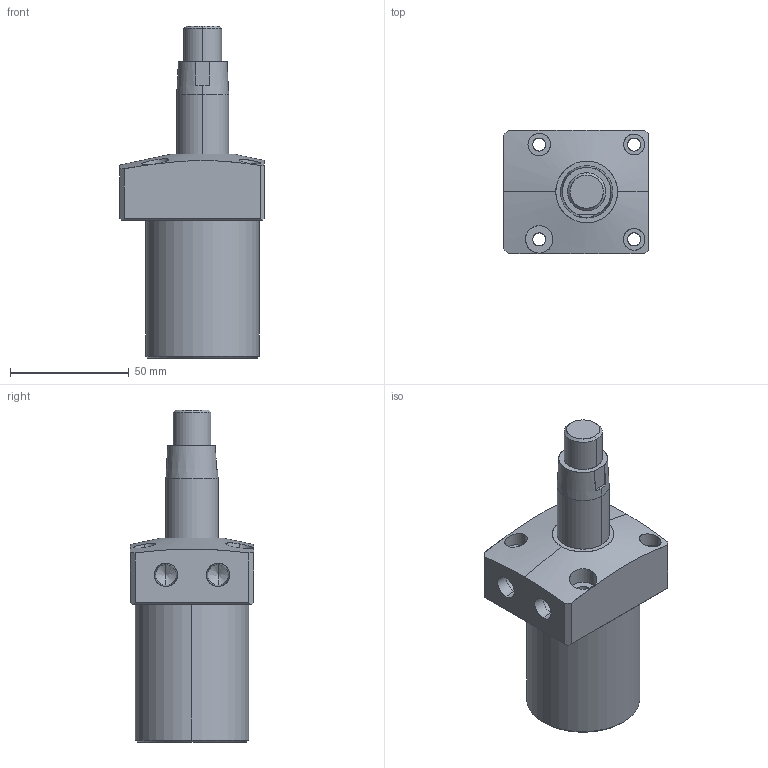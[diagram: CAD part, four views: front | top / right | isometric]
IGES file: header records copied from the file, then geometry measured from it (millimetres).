
Start section: SolidWorks IGES file using analytic representation for surfaces
Global section: file name: E:\ALL SSVT IGS MODEL\ALL-SWING-IGS\48-SWING\SWING-48-TOP-TAPER-LH-RH\SC02-481-R-TOP-TAPER.IGS; native system: SolidWorks 2019; preprocessor: SolidWorks 2019; author: SSVT; date: 210822.120439; units: millimetre
Bounding box: 61 x 52 x 140 mm (x, y, z)
Surface area: 34843.6 mm2 (no closed solid volume)
Topology: 0 solids, 0 shells, 77 faces, 1516 edges, 1512 vertices
Faces by surface type: revolution 48, bspline 29
